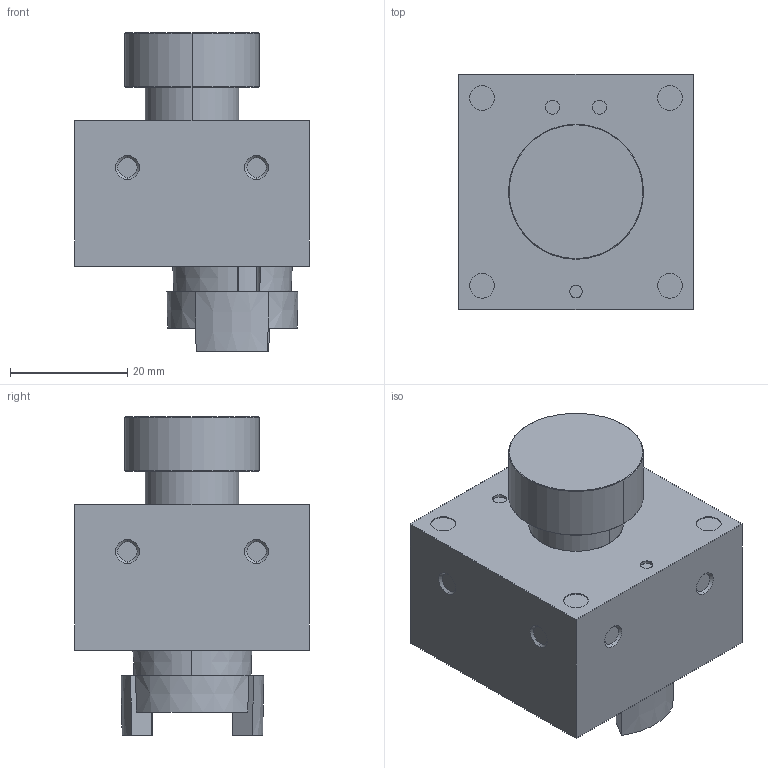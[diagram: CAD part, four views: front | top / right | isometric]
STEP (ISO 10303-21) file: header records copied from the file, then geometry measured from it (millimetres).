
FILE_DESCRIPTION (( 'STEP AP214' ), '1' );
FILE_NAME ('ONE_block flex mount.STEP', '2025-12-15T10:06:13', ( '' ), ( '' ), 'SwSTEP 2.0', 'SolidWorks 2021', '' );
FILE_SCHEMA (( 'AUTOMOTIVE_DESIGN' ));
Length unit declared in the file: millimetre
Products named in the file (1): ONE_block flex mount
Bounding box: 40 x 40 x 54.35 mm (x, y, z)
Volume: 48683.7 mm3; surface area: 9813.4 mm2
Topology: 1 solids, 1 shells, 110 faces, 243 edges, 160 vertices
Faces by surface type: plane 44, cone 34, cylinder 32
Entity records: 3759 total; most frequent: DIRECTION 589, CARTESIAN_POINT 520, ORIENTED_EDGE 486, EDGE_CURVE 243, AXIS2_PLACEMENT_3D 237, VERTEX_POINT 160, EDGE_LOOP 135, CIRCLE 126
